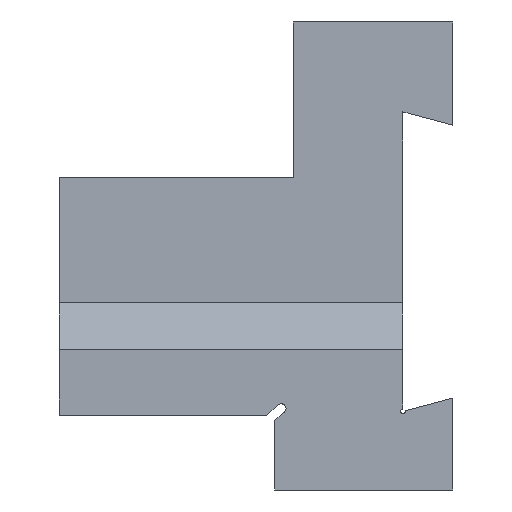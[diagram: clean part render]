
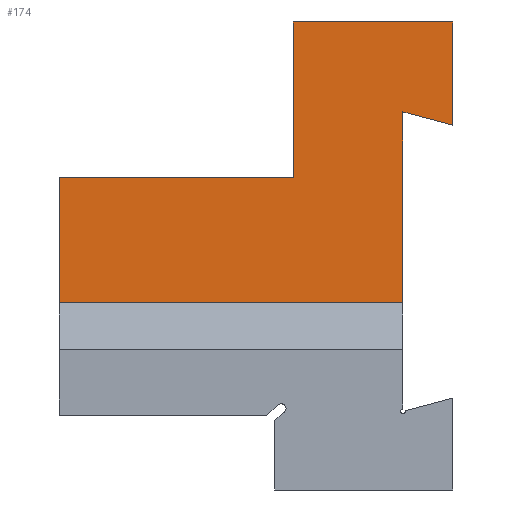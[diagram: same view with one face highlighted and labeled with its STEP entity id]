
A CAD part, front view. The second image highlights one B-rep face of the part: STEP entity #174.
In plain terms, the highlighted planar face has unit normal (0, -1, 0).
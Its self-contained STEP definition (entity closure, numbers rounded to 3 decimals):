
#174=ADVANCED_FACE('',(#238),#216,.F.);
#216=PLANE('',#891);
#238=FACE_OUTER_BOUND('',#284,.T.);
#284=EDGE_LOOP('',(#387,#388,#389,#390,#391,#392,#393,#394));
#387=ORIENTED_EDGE('',*,*,#665,.F.);
#388=ORIENTED_EDGE('',*,*,#642,.F.);
#389=ORIENTED_EDGE('',*,*,#666,.F.);
#390=ORIENTED_EDGE('',*,*,#667,.T.);
#391=ORIENTED_EDGE('',*,*,#668,.T.);
#392=ORIENTED_EDGE('',*,*,#669,.F.);
#393=ORIENTED_EDGE('',*,*,#626,.T.);
#394=ORIENTED_EDGE('',*,*,#670,.F.);
#553=VERTEX_POINT('',#1204);
#555=VERTEX_POINT('',#1207);
#567=VERTEX_POINT('',#1236);
#568=VERTEX_POINT('',#1238);
#587=VERTEX_POINT('',#1283);
#588=VERTEX_POINT('',#1285);
#589=VERTEX_POINT('',#1287);
#590=VERTEX_POINT('',#1289);
#626=EDGE_CURVE('',#555,#553,#728,.T.);
#642=EDGE_CURVE('',#567,#568,#740,.T.);
#665=EDGE_CURVE('',#568,#587,#753,.T.);
#666=EDGE_CURVE('',#588,#567,#754,.T.);
#667=EDGE_CURVE('',#588,#589,#755,.T.);
#668=EDGE_CURVE('',#589,#590,#756,.T.);
#669=EDGE_CURVE('',#555,#590,#757,.T.);
#670=EDGE_CURVE('',#587,#553,#758,.T.);
#728=LINE('',#1206,#800);
#740=LINE('',#1237,#812);
#753=LINE('',#1282,#825);
#754=LINE('',#1284,#826);
#755=LINE('',#1286,#827);
#756=LINE('',#1288,#828);
#757=LINE('',#1290,#829);
#758=LINE('',#1291,#830);
#800=VECTOR('',#969,1.);
#812=VECTOR('',#993,1.);
#825=VECTOR('',#1032,1.);
#826=VECTOR('',#1033,1.);
#827=VECTOR('',#1034,1.);
#828=VECTOR('',#1035,1.);
#829=VECTOR('',#1036,1.);
#830=VECTOR('',#1037,1.);
#891=AXIS2_PLACEMENT_3D('',#1292,#1038,#1039);
#969=DIRECTION('',(-1.,0.,0.));
#993=DIRECTION('',(0.,0.,1.));
#1032=DIRECTION('',(1.,0.,0.));
#1033=DIRECTION('',(-1.,0.,0.));
#1034=DIRECTION('',(0.,0.,1.));
#1035=DIRECTION('',(0.966,0.,-0.259));
#1036=DIRECTION('',(0.,0.,-1.));
#1037=DIRECTION('',(0.,0.,1.));
#1038=DIRECTION('',(0.,1.,0.));
#1039=DIRECTION('',(0.,0.,-1.));
#1204=CARTESIAN_POINT('',(25.,5.,50.));
#1206=CARTESIAN_POINT('',(42.,5.,50.));
#1207=CARTESIAN_POINT('',(42.,5.,50.));
#1236=CARTESIAN_POINT('',(0.,5.,20.));
#1237=CARTESIAN_POINT('',(0.,5.,0.));
#1238=CARTESIAN_POINT('',(0.,5.,33.4));
#1282=CARTESIAN_POINT('',(42.,5.,33.4));
#1283=CARTESIAN_POINT('',(25.,5.,33.4));
#1284=CARTESIAN_POINT('',(42.,5.,20.));
#1285=CARTESIAN_POINT('',(36.7,5.,20.));
#1286=CARTESIAN_POINT('',(36.7,5.,50.));
#1287=CARTESIAN_POINT('',(36.7,5.,40.4));
#1288=CARTESIAN_POINT('',(39.245,5.,39.718));
#1289=CARTESIAN_POINT('',(42.,5.,38.98));
#1290=CARTESIAN_POINT('',(42.,5.,50.));
#1291=CARTESIAN_POINT('',(25.,5.,50.));
#1292=CARTESIAN_POINT('',(42.,5.,50.));
